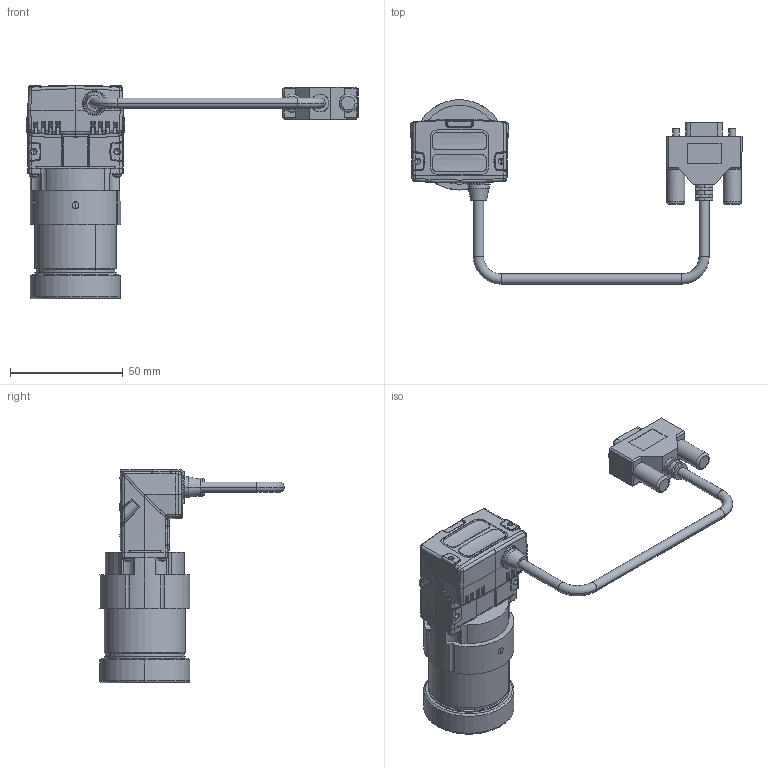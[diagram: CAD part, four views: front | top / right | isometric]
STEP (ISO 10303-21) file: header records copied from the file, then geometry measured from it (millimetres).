
FILE_DESCRIPTION (( 'STEP AP214' ), '1' );
FILE_NAME ('DM15X angled C-mount IP65.STEP', '2017-01-27T08:13:04', ( '' ), ( '' ), 'SwSTEP 2.0', 'SolidWorks 2016', '' );
FILE_SCHEMA (( 'AUTOMOTIVE_DESIGN' ));
Length unit declared in the file: millimetre
Products named in the file (1): DM15X angled C-mount IP65
Bounding box: 147.24 x 81.86 x 94.81 mm (x, y, z)
Volume: 113751.9 mm3; surface area: 24034.4 mm2
Topology: 1 solids, 1 shells, 1873 faces, 4868 edges, 3057 vertices
Faces by surface type: bspline 646, plane 556, cylinder 445, cone 120, torus 82, sphere 24
Entity records: 76469 total; most frequent: CARTESIAN_POINT 36326, ORIENTED_EDGE 9704, DIRECTION 6487, EDGE_CURVE 4852, VERTEX_POINT 3057, AXIS2_PLACEMENT_3D 2464, EDGE_LOOP 1969, FACE_OUTER_BOUND 1873
